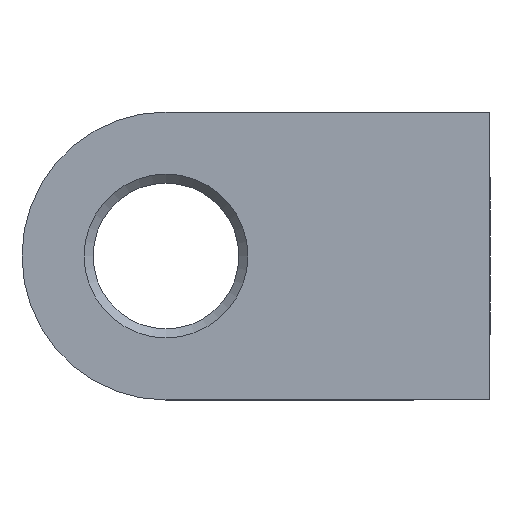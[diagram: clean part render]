
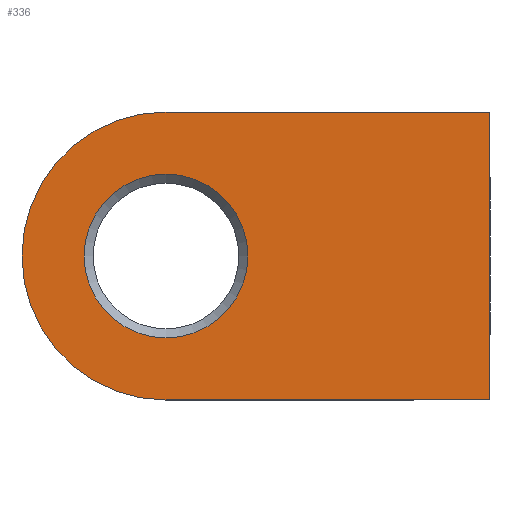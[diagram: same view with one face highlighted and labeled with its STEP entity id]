
A CAD part, left-side view. The second image highlights one B-rep face of the part: STEP entity #336.
In plain terms, the highlighted planar face has unit normal (-1, 0, 0).
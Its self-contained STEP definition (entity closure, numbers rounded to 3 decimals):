
#2 = VERTEX_POINT ( 'NONE', #63 ) ;
#18 = LINE ( 'NONE', #517, #316 ) ;
#31 = ORIENTED_EDGE ( 'NONE', *, *, #356, .F. ) ;
#63 = CARTESIAN_POINT ( 'NONE',  ( -27.5, 22.55, 0. ) ) ;
#65 = LINE ( 'NONE', #124, #163 ) ;
#89 = CIRCLE ( 'NONE', #442, 4.55 ) ;
#91 = VERTEX_POINT ( 'NONE', #519 ) ;
#106 = VERTEX_POINT ( 'NONE', #477 ) ;
#116 = EDGE_CURVE ( 'NONE', #91, #391, #18, .T. ) ;
#124 = CARTESIAN_POINT ( 'NONE',  ( -27.5, 0., 8. ) ) ;
#126 = DIRECTION ( 'NONE',  ( 1., 0., 0. ) ) ;
#134 = EDGE_CURVE ( 'NONE', #391, #106, #343, .T. ) ;
#163 = VECTOR ( 'NONE', #559, 1000. ) ;
#168 = DIRECTION ( 'NONE',  ( 0., 1., 0. ) ) ;
#170 = VERTEX_POINT ( 'NONE', #338 ) ;
#179 = CARTESIAN_POINT ( 'NONE',  ( -27.5, 18., -8. ) ) ;
#188 = DIRECTION ( 'NONE',  ( 0., 0., -1. ) ) ;
#192 = FACE_OUTER_BOUND ( 'NONE', #220, .T. ) ;
#195 = EDGE_CURVE ( 'NONE', #106, #170, #65, .T. ) ;
#199 = VECTOR ( 'NONE', #188, 1000. ) ;
#208 = ORIENTED_EDGE ( 'NONE', *, *, #233, .T. ) ;
#220 = EDGE_LOOP ( 'NONE', ( #401, #505, #520, #31 ) ) ;
#224 = PLANE ( 'NONE',  #353 ) ;
#233 = EDGE_CURVE ( 'NONE', #2, #2, #89, .T. ) ;
#240 = EDGE_LOOP ( 'NONE', ( #208 ) ) ;
#242 = DIRECTION ( 'NONE',  ( 1., 0., 0. ) ) ;
#248 = DIRECTION ( 'NONE',  ( 0., -1., 0. ) ) ;
#281 = FACE_BOUND ( 'NONE', #240, .T. ) ;
#287 = CARTESIAN_POINT ( 'NONE',  ( -27.5, 0., 10. ) ) ;
#316 = VECTOR ( 'NONE', #377, 1000. ) ;
#333 = AXIS2_PLACEMENT_3D ( 'NONE', #384, #242, #248 ) ;
#336 = ADVANCED_FACE ( 'NONE', ( #281, #192 ), #224, .F. ) ;
#338 = CARTESIAN_POINT ( 'NONE',  ( -27.5, 0., 8. ) ) ;
#343 = CIRCLE ( 'NONE', #333, 8. ) ;
#353 = AXIS2_PLACEMENT_3D ( 'NONE', #287, #364, #406 ) ;
#356 = EDGE_CURVE ( 'NONE', #170, #91, #577, .T. ) ;
#364 = DIRECTION ( 'NONE',  ( 1., 0., 0. ) ) ;
#377 = DIRECTION ( 'NONE',  ( 0., 1., 0. ) ) ;
#384 = CARTESIAN_POINT ( 'NONE',  ( -27.5, 18., 0. ) ) ;
#391 = VERTEX_POINT ( 'NONE', #179 ) ;
#401 = ORIENTED_EDGE ( 'NONE', *, *, #195, .F. ) ;
#406 = DIRECTION ( 'NONE',  ( 0., 1., 0. ) ) ;
#442 = AXIS2_PLACEMENT_3D ( 'NONE', #568, #126, #168 ) ;
#477 = CARTESIAN_POINT ( 'NONE',  ( -27.5, 18., 8. ) ) ;
#505 = ORIENTED_EDGE ( 'NONE', *, *, #134, .F. ) ;
#517 = CARTESIAN_POINT ( 'NONE',  ( -27.5, 0., -8. ) ) ;
#519 = CARTESIAN_POINT ( 'NONE',  ( -27.5, 0., -8. ) ) ;
#520 = ORIENTED_EDGE ( 'NONE', *, *, #116, .F. ) ;
#559 = DIRECTION ( 'NONE',  ( 0., -1., 0. ) ) ;
#568 = CARTESIAN_POINT ( 'NONE',  ( -27.5, 18., 0. ) ) ;
#574 = CARTESIAN_POINT ( 'NONE',  ( -27.5, 0., 10. ) ) ;
#577 = LINE ( 'NONE', #574, #199 ) ;
